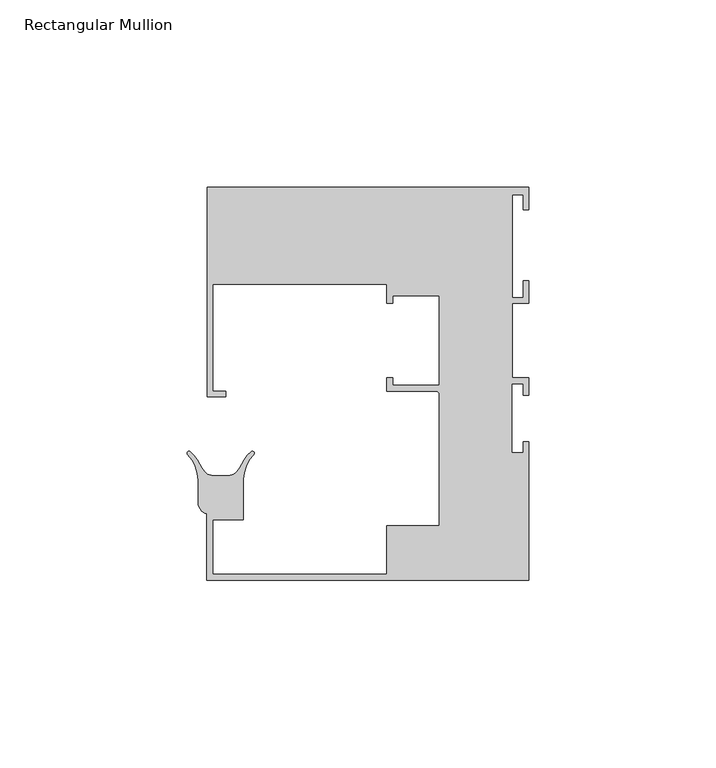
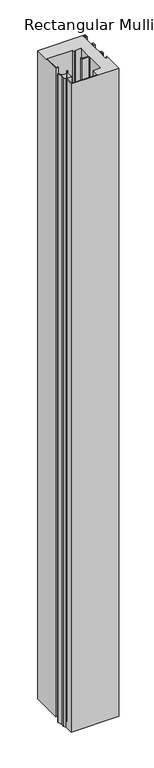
"""IFC4 building model written with IfcOpenShell, lengths in millimetres: member geometry, Rectangular Mullion : Danpal_Airpt_End-Mullion_B1."""

import ifcopenshell
import ifcopenshell.guid

model = None  # the IFC model being written
_history = None  # IfcOwnerHistory: only IFC2X3 demands one
_inside = {}  # id of a spatial element -> (the spatial element, [elements in it])
_under = {}  # id of a project, library or spatial element -> (it, [spatial elements below it])
_declared = {}  # id of a project -> (the project, [libraries it declares])
_typed = {}  # id of a type object -> (the type object, [elements of that type])
_made_of = {}  # id of a material, layer set ... -> (it, [elements and type objects made of it])


def new_model(schema):
    """Start an empty IFC model of exactly this schema.

    Asked for "IFC4X3", IfcOpenShell would pick the latest addendum, in which some entities
    have other attributes; the version numbers below select the first issue.
    IFC2X3 requires an IfcOwnerHistory on every rooted entity: one is made here for all.
    """
    global model, _history
    if schema == "IFC4X3":
        model = ifcopenshell.file(schema_version=(4, 3, 0, 0))
    else:
        model = ifcopenshell.file(schema=schema)
    _inside.clear()
    _under.clear()
    _declared.clear()
    _typed.clear()
    _made_of.clear()
    _history = None
    if model.schema == "IFC2X3":
        org = make("IfcOrganization", Name="unknown")
        user = make(
            "IfcPersonAndOrganization",
            ThePerson=make("IfcPerson", FamilyName="unknown"),
            TheOrganization=org,
        )
        app = make(
            "IfcApplication",
            ApplicationDeveloper=org,
            Version="unknown",
            ApplicationFullName="unknown",
            ApplicationIdentifier="unknown",
        )
        _history = make(
            "IfcOwnerHistory",
            OwningUser=user,
            OwningApplication=app,
            ChangeAction="ADDED",
            CreationDate=0,
        )
    return model


def make(cls, **values):
    """One entity of the class cls with the attributes given. An attribute that is None is left unset."""
    return model.create_entity(
        cls, **{name: value for name, value in values.items() if value is not None}
    )


def rooted(cls, **values):
    """An entity with a GlobalId (a new one), such as an element, a storey or a relation."""
    return make(cls, GlobalId=ifcopenshell.guid.new(), OwnerHistory=_history, **values)


def si_unit(unit_type, name, prefix=None):
    """IfcSIUnit, for example si_unit("LENGTHUNIT", "METRE", prefix="MILLI")."""
    return make("IfcSIUnit", UnitType=unit_type, Prefix=prefix, Name=name)


def assignment(units):
    """IfcUnitAssignment: the units of a project."""
    return None if units is None else make("IfcUnitAssignment", Units=units)


def point(xyz):
    """IfcCartesianPoint."""
    return None if xyz is None else make("IfcCartesianPoint", Coordinates=xyz)


def direction(xyz):
    """IfcDirection."""
    return None if xyz is None else make("IfcDirection", DirectionRatios=xyz)


def frame(location, z_axis=None, x_axis=None):
    """IfcAxis2Placement3D, a coordinate frame: its origin and axes. An axis left out is left unset."""
    return make(
        "IfcAxis2Placement3D",
        Location=point(location),
        Axis=direction(z_axis),
        RefDirection=direction(x_axis),
    )


def frame_2d(location, x_axis=None):
    """IfcAxis2Placement2D, a coordinate frame in the plane: its origin and x axis."""
    return make(
        "IfcAxis2Placement2D", Location=point(location), RefDirection=direction(x_axis)
    )


def origin():
    """The frame at (0, 0, 0) with its axes left unset."""
    return frame((0.0, 0.0, 0.0))


def place(relative_to, where):
    """IfcLocalPlacement: puts the frame where relative to a parent placement (None: the world)."""
    return make(
        "IfcLocalPlacement", PlacementRelTo=relative_to, RelativePlacement=where
    )


def context(
    kind, dimensions, precision=None, world=None, true_north=None, identifier=None
):
    """IfcGeometricRepresentationContext, for example the 3D "Model" context."""
    return make(
        "IfcGeometricRepresentationContext",
        ContextIdentifier=identifier,
        ContextType=kind,
        CoordinateSpaceDimension=dimensions,
        Precision=precision,
        WorldCoordinateSystem=world,
        TrueNorth=true_north,
    )


def project(units=None, contexts=None):
    """IfcProject with its units and contexts."""
    return rooted(
        "IfcProject",
        Name="project",
        RepresentationContexts=contexts,
        UnitsInContext=assignment(units),
    )


def spatial(cls, under=None, at=None, **own):
    """A site, building, storey or space (cls), placed at a placement, below another one or the project."""
    s = rooted(cls, ObjectPlacement=at, **own)
    if under is not None:
        _under.setdefault(under.id(), (under, []))[1].append(s)
    return s


def polyline(points):
    """IfcPolyline through the points."""
    return make("IfcPolyline", Points=[point(p) for p in points])


def circle_curve(where, radius):
    """IfcCircle in the frame where."""
    return make("IfcCircle", Position=where, Radius=radius)


def trimmed(basis, trim1, trim2, sense, master):
    """IfcTrimmedCurve: the piece of a basis curve between two trims."""
    return make(
        "IfcTrimmedCurve",
        BasisCurve=basis,
        Trim1=trim1,
        Trim2=trim2,
        SenseAgreement=sense,
        MasterRepresentation=master,
    )


def segment(curve, same_sense, transition):
    """IfcCompositeCurveSegment."""
    return make(
        "IfcCompositeCurveSegment",
        Transition=transition,
        SameSense=same_sense,
        ParentCurve=curve,
    )


def composite_curve(segments, self_intersect=None):
    """IfcCompositeCurve: segments joined end to end."""
    return make("IfcCompositeCurve", Segments=segments, SelfIntersect=self_intersect)


def outline(outer, holes=None, kind="AREA"):
    """IfcArbitraryClosedProfileDef: a profile drawn as a closed curve; with holes, ...WithVoids."""
    if holes is None:
        return make("IfcArbitraryClosedProfileDef", ProfileType=kind, OuterCurve=outer)
    return make(
        "IfcArbitraryProfileDefWithVoids",
        ProfileType=kind,
        OuterCurve=outer,
        InnerCurves=holes,
    )


def extrude(swept, where, along, depth):
    """IfcExtrudedAreaSolid: the profile swept, set in the frame where, extruded along a direction by depth."""
    return make(
        "IfcExtrudedAreaSolid",
        SweptArea=swept,
        Position=where,
        ExtrudedDirection=direction(along),
        Depth=depth,
    )


def shape(context_of_items, identifier, shape_type, items):
    """IfcShapeRepresentation: the items that make up one representation, for example the "Body"."""
    return make(
        "IfcShapeRepresentation",
        ContextOfItems=context_of_items,
        RepresentationIdentifier=identifier,
        RepresentationType=shape_type,
        Items=items,
    )


def source(mapping_origin, context_of_items, identifier, shape_type, items):
    """IfcRepresentationMap: a shape defined once, which mapped items show again and again."""
    return make(
        "IfcRepresentationMap",
        MappingOrigin=mapping_origin,
        MappedRepresentation=shape(context_of_items, identifier, shape_type, items),
    )


def transform(
    local_origin,
    x_axis=None,
    y_axis=None,
    z_axis=None,
    scale=None,
    scale2=None,
    scale3=None,
    uniform=True,
):
    """IfcCartesianTransformationOperator3D, or its non-uniform kind. x_axis, y_axis, z_axis: its Axis1, 2, 3."""
    if uniform:
        return make(
            "IfcCartesianTransformationOperator3D",
            Axis1=direction(x_axis),
            Axis2=direction(y_axis),
            LocalOrigin=point(local_origin),
            Scale=scale,
            Axis3=direction(z_axis),
        )
    return make(
        "IfcCartesianTransformationOperator3DnonUniform",
        Axis1=direction(x_axis),
        Axis2=direction(y_axis),
        LocalOrigin=point(local_origin),
        Scale=scale,
        Axis3=direction(z_axis),
        Scale2=scale2,
        Scale3=scale3,
    )


def mapped(mapping_source, mapping_target):
    """IfcMappedItem: shows the shape of a source again, moved by a transform."""
    return make(
        "IfcMappedItem", MappingSource=mapping_source, MappingTarget=mapping_target
    )


def made_of(thing, what):
    """Note that an element or type object is made of a material, layer set ...; save() writes the relation."""
    if what is not None:
        _made_of.setdefault(what.id(), (what, []))[1].append(thing)
    return thing


def element(
    cls,
    number,
    at=None,
    inside=None,
    cuts=None,
    type_object=None,
    material=None,
    context=None,
    identifier="Body",
    shape_type=None,
    held_by="IfcProductDefinitionShape",
    body=None,
    shapes=None,
    **own,
):
    """One element of the class cls, such as IfcWall. Its Tag is "e" and its number.

    at: its placement. inside: the storey or other place that contains it. cuts: it is an
    opening in that element (IfcRelVoidsElement). A single representation is given by context,
    identifier, shape_type and body (its items); several are given by shapes. held_by: the class
    of the entity that holds the representations. save() writes the other relations.
    """
    e = rooted(cls, Tag="e%d" % number, ObjectPlacement=at, **own)
    if body is not None:
        shapes = [shape(context, identifier, shape_type, body)]
    if shapes is not None:
        e.Representation = make(held_by, Representations=shapes)
    if inside is not None:
        _inside.setdefault(inside.id(), (inside, []))[1].append(e)
    if cuts is not None:
        rooted(
            "IfcRelVoidsElement", RelatingBuildingElement=cuts, RelatedOpeningElement=e
        )
    if type_object is not None:
        _typed.setdefault(type_object.id(), (type_object, []))[1].append(e)
    return made_of(e, material)


def aggregate(whole, parts):
    """IfcRelAggregates: a whole, such as a stair, and the parts it consists of."""
    return rooted("IfcRelAggregates", RelatingObject=whole, RelatedObjects=parts)


def save(model, path):
    """Write the relations noted so far, then the file.

    IfcRelAggregates (storeys below a building ...), IfcRelContainedInSpatialStructure (elements
    in a storey), IfcRelDefinesByType, IfcRelAssociatesMaterial and IfcRelDeclares: one each for
    every whole, place, type object, material and project.
    """
    for whole, parts in _under.values():
        aggregate(whole, parts)
    for where, things in _inside.values():
        rooted(
            "IfcRelContainedInSpatialStructure",
            RelatedElements=things,
            RelatingStructure=where,
        )
    for kind, things in _typed.values():
        rooted("IfcRelDefinesByType", RelatedObjects=things, RelatingType=kind)
    for what, things in _made_of.values():
        rooted("IfcRelAssociatesMaterial", RelatedObjects=things, RelatingMaterial=what)
    for by, libraries in _declared.values():
        rooted("IfcRelDeclares", RelatingContext=by, RelatedDefinitions=libraries)
    model.write(path)


def rectangular_mullion_0c1c3824(model_context):
    return source(origin(), model_context, "Body", "SweptSolid", [
        extrude(outline(composite_curve([segment(polyline([(-84.5, 44.249979), (-84.5, 15.7500001), (-81.0, 15.7500001), (-81.0, 14.2500001), (-86.0, 14.2500001), (-86.0, 70.2500001), (0.0, 70.2500001), (0.0, 64.2500001), (-1.5, 64.2500001), (-1.5, 68.2500001), (-4.5, 68.2500001), (-4.5, 40.7500001), (-1.5180937, 40.7500001), (-1.5180937, 45.2500001), (-0.0180937, 45.2500001), (-0.0180937, 39.2500001), (-4.5, 39.2500001), (-4.5, 19.25), (-0.0180922, 19.25), (-0.0180922, 14.65), (-1.5180922, 14.65), (-1.5180922, 17.65), (-4.5180922, 17.65), (-4.5180922, -0.75), (-1.5180922, -0.75), (-1.5180922, 2.25), (-0.0180922, 2.25), (-0.0180922, -34.75), (-86.0180914, -34.75), (-86.0180914, -17.0365625)]), True, "CONTINUOUS"), segment(trimmed(circle_curve(frame_2d((-85.366716, -14.1081309)), 3.0000002), [point((-86.0180914, -17.0365625))], [point((-88.3666989, -14.1183419))], False, "CARTESIAN"), True, "CONTINUOUS"), segment(polyline([(-88.3666989, -14.1183419), (-88.3666989, -8.1181379)]), True, "CONTINUOUS"), segment(trimmed(circle_curve(frame_2d((-98.3666403, -8.1523787)), 10.0), [point((-88.3666989, -8.1181379))], [point((-91.1789286, -1.1999114))], True, "CARTESIAN"), True, "CONTINUOUS"), segment(trimmed(circle_curve(frame_2d((-90.8194227, -0.8521716)), 0.5001675), [point((-91.1789286, -1.1999114))], [point((-90.4970116, -0.4697862))], False, "CARTESIAN"), True, "CONTINUOUS"), segment(trimmed(circle_curve(frame_2d((-96.9430732, -8.114934)), 9.9999998), [point((-90.4970116, -0.4697862))], [point((-87.9289412, -3.785336))], False, "CARTESIAN"), True, "CONTINUOUS"), segment(trimmed(circle_curve(frame_2d((-78.9148092, 0.544262)), 9.9999997), [point((-87.9289412, -3.785336))], [point((-86.6990305, -5.7331494))], True, "CARTESIAN"), True, "CONTINUOUS"), segment(trimmed(circle_curve(frame_2d((-84.363764, -3.8499259)), 3.0), [point((-86.6990305, -5.7331494))], [point((-84.363764, -6.8499259))], True, "CARTESIAN"), True, "CONTINUOUS"), segment(polyline([(-84.363764, -6.8499259), (-80.32512, -6.8499259)]), True, "CONTINUOUS"), segment(trimmed(circle_curve(frame_2d((-80.32512, -3.8499259)), 3.0), [point((-80.32512, -6.8499259))], [point((-77.9898528, -5.7331484))], True, "CARTESIAN"), True, "CONTINUOUS"), segment(trimmed(circle_curve(frame_2d((-85.7740768, 0.5442599)), 10.0), [point((-77.9898528, -5.7331484))], [point((-76.759944, -3.7853369))], True, "CARTESIAN"), True, "CONTINUOUS"), segment(trimmed(circle_curve(frame_2d((-67.7458114, -8.1149337)), 9.9999997), [point((-76.759944, -3.7853369))], [point((-74.1944462, -0.4719563))], False, "CARTESIAN"), True, "CONTINUOUS"), segment(trimmed(circle_curve(frame_2d((-73.8718016, -0.8543575)), 0.5003301), [point((-74.1944462, -0.4719563))], [point((-73.5120728, -1.2021009))], False, "CARTESIAN"), True, "CONTINUOUS"), segment(trimmed(circle_curve(frame_2d((-66.322244, -8.1523787)), 10.0), [point((-73.5120728, -1.2021009))], [point((-76.3180945, -7.8643287))], True, "CARTESIAN"), True, "CONTINUOUS"), segment(polyline([(-76.3180945, -7.8643287), (-76.3180945, -18.6499969), (-84.5180945, -18.6499969), (-84.5180945, -33.2499969), (-38.0180899, -33.2499969), (-38.0180899, -20.2499969), (-23.9180899, -20.2499969), (-23.9180899, 14.698377)]), True, "CONTINUOUS"), segment(trimmed(circle_curve(frame_2d((-24.969716, 14.698377)), 1.0516261), [point((-23.9180899, 14.698377))], [point((-24.969716, 15.7500031))], True, "CARTESIAN"), True, "CONTINUOUS"), segment(polyline([(-24.969716, 15.7500031), (-38.0180899, 15.7500031), (-38.0180899, 19.2500031), (-36.4180899, 19.2500031), (-36.4180899, 17.2500031), (-23.9180899, 17.2500031), (-23.9180899, 41.2500001), (-36.4, 41.2500001), (-36.4, 39.2500001), (-38.0, 39.2500001), (-38.0, 44.249979), (-84.5, 44.249979)]), True, "CONTINUOUS")], self_intersect=False)), frame((0.0, 0.0, -1242.0137432), z_axis=(0.0, 0.0, 1.0), x_axis=(1.0, 0.0, 0.0)), (0.0, 0.0, 1.0), 1242.0137432),
    ])


if __name__ == "__main__":
    model = new_model("IFC4")
    model_context = context("Model", 3, world=origin())
    ifc_project = project(units=[si_unit("LENGTHUNIT", "METRE", prefix="MILLI")], contexts=[model_context])
    site = spatial("IfcSite", under=ifc_project)
    building = spatial("IfcBuilding", under=site)
    placement = place(None, origin())
    rectangular_mullion_shape = rectangular_mullion_0c1c3824(model_context)
    element("IfcMember", 1, ObjectType="Rectangular Mullion : Danpal_Airpt_End-Mullion_B1", at=placement, inside=building, context=model_context, shape_type="MappedRepresentation", body=[
        mapped(rectangular_mullion_shape, transform((0.0, 0.0, 0.0), x_axis=(1.0, 0.0, 0.0), y_axis=(0.0, 1.0, 0.0), z_axis=(0.0, 0.0, 1.0))),
    ])
    save(model, "model.ifc")
